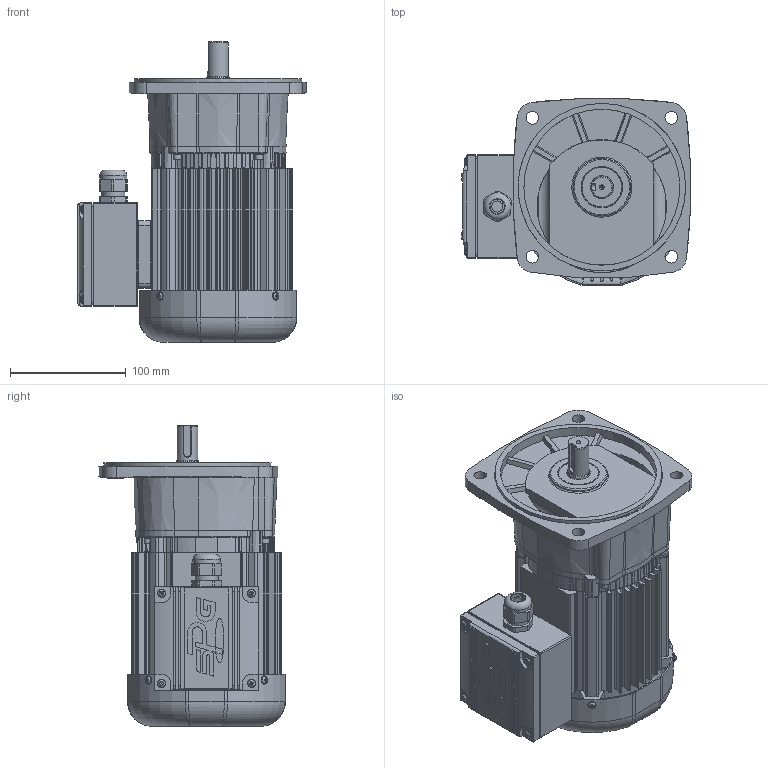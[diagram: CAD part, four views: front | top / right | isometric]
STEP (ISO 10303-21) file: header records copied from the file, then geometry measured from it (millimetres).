
FILE_DESCRIPTION(/* description */ (''),/* implementation_level */ '2;1');
FILE_NAME(/* name */ 'Z:\동력 3D 파일\PAF18-(5~25)-MA(B)020[ ]L_(3D).stp',/* time_stamp */ '2021-11-04T11:32:51+09:00',/* author */ ('jaebok'),/* organization */ (''),/* preprocessor_version */ 'ST-DEVELOPER v18.1',/* originating_system */ 'Autodesk Inventor 2022',/* authorisation */ '');
FILE_SCHEMA (('AUTOMOTIVE_DESIGN { 1 0 10303 214 3 1 1 }'));
Products named in the file (1): 부품1
Bounding box: 198.26 x 161.46 x 260 mm (x, y, z)
Volume: 1095487.6 mm3; surface area: 455214.9 mm2
Topology: 2 solids, 40 shells, 2501 faces, 6559 edges, 4075 vertices
Faces by surface type: plane 994, cylinder 718, bspline 354, torus 202, cone 173, sphere 60
Full cylindrical faces by diameter (mm): 2 x1, 3.242 x9, 3.25 x1, 3.4 x4, 3.6 x4, 4 x25, 4.5 x4, 4.917 x4, 5 x15, 5.386 x4, 6 x8, 6.5 x4, 7 x16, 8 x1, 10 x1, 11 x4, 12 x1, 12.5 x1, 13 x1, 15 x1, 18 x1, 19.6 x1, 20 x5, 21 x3, 23.6 x1, 25 x2, 26 x1, 27 x1, 28 x2, 34 x1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
Entity records: 92177 total; most frequent: CARTESIAN_POINT 31097, ORIENTED_EDGE 12840, DIRECTION 12072, EDGE_CURVE 6420, AXIS2_PLACEMENT_3D 4781, VERTEX_POINT 4075, EDGE_LOOP 2686, CIRCLE 2533
